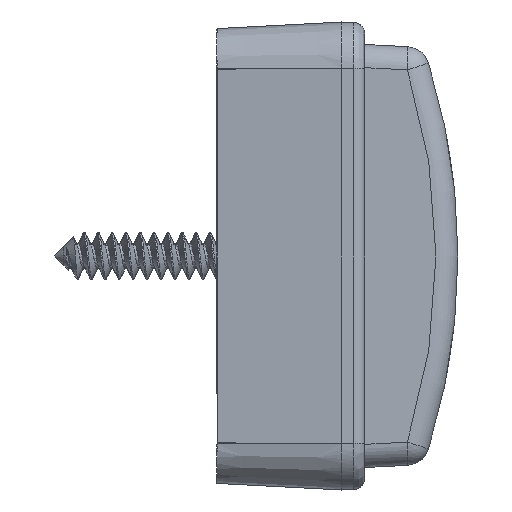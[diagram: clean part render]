
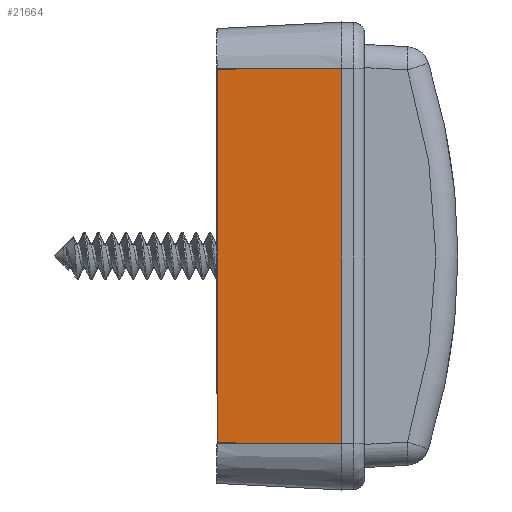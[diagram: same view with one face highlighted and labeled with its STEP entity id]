
A CAD part, front view. The second image highlights one B-rep face of the part: STEP entity #21664.
In plain terms, the highlighted planar face has unit normal (-0.052, -0.999, 0).
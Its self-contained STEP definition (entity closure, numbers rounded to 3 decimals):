
#1381=DIRECTION('',(0.,0.,-1.));
#1382=VECTOR('',#1381,32.197);
#1383=CARTESIAN_POINT('',(-8.7,-196.439,
16.099));
#1384=LINE('',#1383,#1382);
#1474=DIRECTION('',(-0.999,0.052,0.));
#1475=VECTOR('',#1474,10.715);
#1476=CARTESIAN_POINT('',(2.,-197.,
-16.1));
#1477=LINE('',#1476,#1475);
#1478=DIRECTION('',(0.999,-0.052,0.));
#1479=VECTOR('',#1478,10.715);
#1480=CARTESIAN_POINT('',(-8.7,-196.439,
16.099));
#1481=LINE('',#1480,#1479);
#1593=DIRECTION('',(0.,0.,1.));
#1594=VECTOR('',#1593,32.201);
#1595=CARTESIAN_POINT('',(2.,-197.,
-16.1));
#1596=LINE('',#1595,#1594);
#14146=CARTESIAN_POINT('',(-8.7,-196.439,
16.097));
#14147=VERTEX_POINT('',#14146);
#14148=CARTESIAN_POINT('',(-8.7,-196.439,
-16.098));
#14149=VERTEX_POINT('',#14148);
#14215=CARTESIAN_POINT('',(2.,-197.,
-16.1));
#14216=VERTEX_POINT('',#14215);
#14217=CARTESIAN_POINT('',(2.,-197.,
16.101));
#14218=VERTEX_POINT('',#14217);
#21651=CARTESIAN_POINT('',(2.,-197.,
20.87));
#21652=DIRECTION('',(-0.052,-0.999,0.));
#21653=DIRECTION('',(0.,0.,1.));
#21654=AXIS2_PLACEMENT_3D('',#21651,#21652,#21653);
#21655=PLANE('',#21654);
#21656=ORIENTED_EDGE('',*,*,#21642,.T.);
#21657=ORIENTED_EDGE('',*,*,#21447,.F.);
#21659=ORIENTED_EDGE('',*,*,#21658,.T.);
#21661=ORIENTED_EDGE('',*,*,#21660,.F.);
#21662=EDGE_LOOP('',(#21656,#21657,#21659,#21661));
#21663=FACE_OUTER_BOUND('',#21662,.F.);
#21664=ADVANCED_FACE('',(#21663),#21655,.T.);
#21447=EDGE_CURVE('',#14147,#14149,#1384,.T.);
#21642=EDGE_CURVE('',#14216,#14149,#1477,.T.);
#21658=EDGE_CURVE('',#14147,#14218,#1481,.T.);
#21660=EDGE_CURVE('',#14216,#14218,#1596,.T.);
